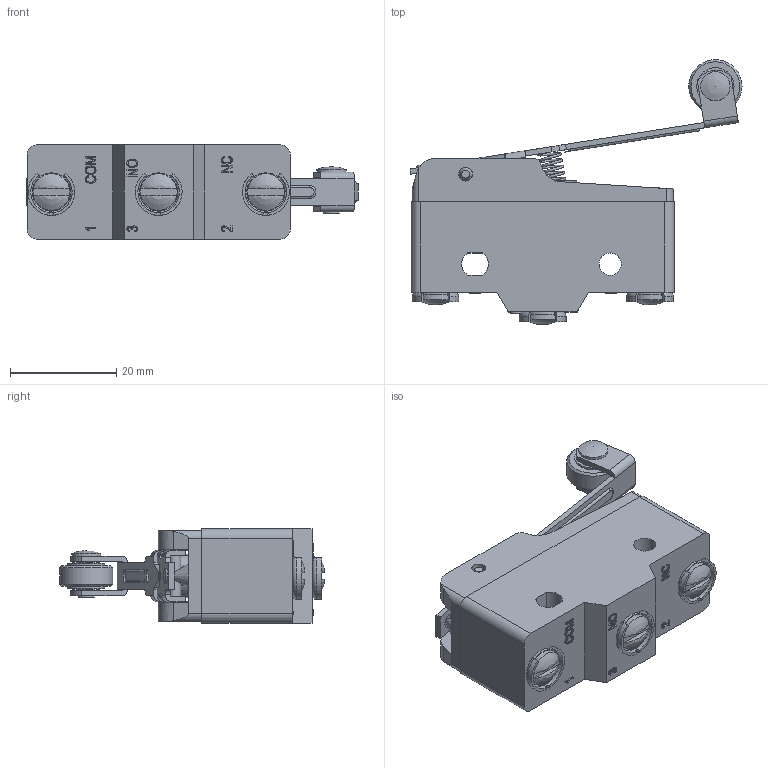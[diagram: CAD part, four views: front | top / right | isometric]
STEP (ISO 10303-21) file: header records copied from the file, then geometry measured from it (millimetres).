
FILE_DESCRIPTION((''),'2; 1');
FILE_NAME('','2026-03-27T16:23:41',(''),(''),'CST STEP Exporter V1.0','Unknown','');
FILE_SCHEMA(('CONFIG_CONTROL_DESIGN'));
Length unit declared in the file: metre
Assembly tree (16 placements, depth 2):
  (unnamed)
    (unnamed)
    (unnamed)
    (unnamed)
    (unnamed)
    (unnamed)
    (unnamed)
    (unnamed)
    (unnamed)
    (unnamed)
    (unnamed)
    (unnamed)
    (unnamed)
    (unnamed)
    (unnamed)
    (unnamed)
    (unnamed)
Bounding box: 62.38 x 49.73 x 17.7 mm (x, y, z)
Surface area: 17443.4 mm2 (no closed solid volume)
Topology: 0 solids, 17 shells, 508 faces, 1450 edges, 985 vertices
Faces by surface type: plane 327, cylinder 91, extrusion 61, torus 12, cone 7, revolution 6, sphere 2, bspline 2
Full cylindrical faces by diameter (mm): 1.9 x1, 2.4 x1, 2.5 x1, 2.6 x4, 3 x1, 3.2 x1, 4 x1, 4.2 x1, 5 x1, 5.5 x1, 6.9 x3, 7 x2, 8.2 x1, 10 x1
Entity records: 23222 total; most frequent: CARTESIAN_POINT 6161, ORIENTED_EDGE 2634, DIRECTION 2422, EDGE_CURVE 1401, VECTOR 1013, LINE 952, VERTEX_POINT 951, AXIS2_PLACEMENT_3D 703
